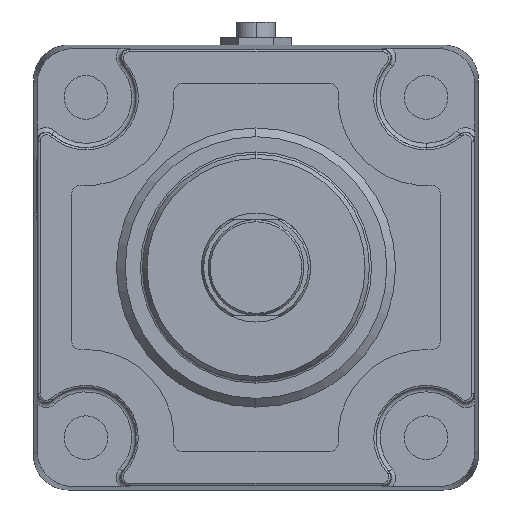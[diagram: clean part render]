
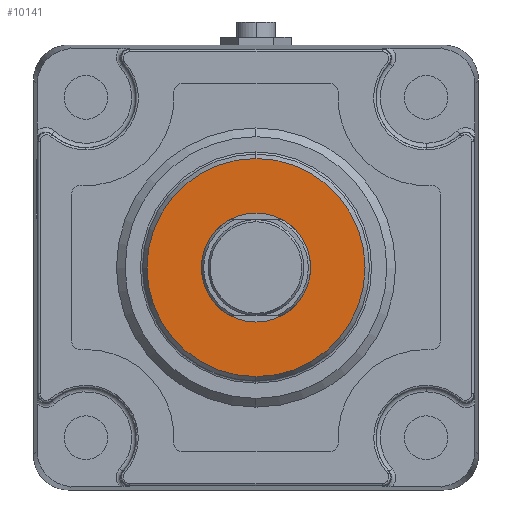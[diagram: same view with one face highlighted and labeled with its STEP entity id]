
A CAD part, left-side view. The second image highlights one B-rep face of the part: STEP entity #10141.
In plain terms, the highlighted planar face has unit normal (-1, 0, 0).
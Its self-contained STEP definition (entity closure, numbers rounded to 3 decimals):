
#236 = EDGE_CURVE ( 'NONE', #7395, #4058, #9733, .T. ) ;
#408 = CIRCLE ( 'NONE', #9065, 12.5 ) ;
#837 = DIRECTION ( 'NONE',  ( 0., 0., 1. ) ) ;
#911 = VERTEX_POINT ( 'NONE', #1241 ) ;
#944 = DIRECTION ( 'NONE',  ( 0., 0., -1. ) ) ;
#1028 = ORIENTED_EDGE ( 'NONE', *, *, #236, .T. ) ;
#1241 = CARTESIAN_POINT ( 'NONE',  ( -75.8, 0., 25. ) ) ;
#1665 = DIRECTION ( 'NONE',  ( 1., 0., 0. ) ) ;
#2604 = ORIENTED_EDGE ( 'NONE', *, *, #8326, .T. ) ;
#2758 = DIRECTION ( 'NONE',  ( -1., 0., 0. ) ) ;
#3375 = AXIS2_PLACEMENT_3D ( 'NONE', #4661, #9406, #10652 ) ;
#3422 = AXIS2_PLACEMENT_3D ( 'NONE', #6946, #7618, #7782 ) ;
#3979 = CARTESIAN_POINT ( 'NONE',  ( -75.8, 0., 0. ) ) ;
#4058 = VERTEX_POINT ( 'NONE', #8491 ) ;
#4369 = VERTEX_POINT ( 'NONE', #6269 ) ;
#4418 = CARTESIAN_POINT ( 'NONE',  ( -75.8, 0., 0. ) ) ;
#4661 = CARTESIAN_POINT ( 'NONE',  ( -75.8, 0., 0. ) ) ;
#4943 = FACE_OUTER_BOUND ( 'NONE', #5385, .T. ) ;
#5144 = ORIENTED_EDGE ( 'NONE', *, *, #6812, .T. ) ;
#5385 = EDGE_LOOP ( 'NONE', ( #2604, #8450 ) ) ;
#5413 = CIRCLE ( 'NONE', #9137, 25. ) ;
#5420 = EDGE_LOOP ( 'NONE', ( #1028, #5144 ) ) ;
#6269 = CARTESIAN_POINT ( 'NONE',  ( -75.8, 0., -25. ) ) ;
#6396 = PLANE ( 'NONE',  #3422 ) ;
#6812 = EDGE_CURVE ( 'NONE', #4058, #7395, #408, .T. ) ;
#6889 = EDGE_CURVE ( 'NONE', #911, #4369, #5413, .T. ) ;
#6946 = CARTESIAN_POINT ( 'NONE',  ( -75.8, 26., 0. ) ) ;
#7395 = VERTEX_POINT ( 'NONE', #7732 ) ;
#7618 = DIRECTION ( 'NONE',  ( -1., 0., 0. ) ) ;
#7732 = CARTESIAN_POINT ( 'NONE',  ( -75.8, 0., -12.5 ) ) ;
#7782 = DIRECTION ( 'NONE',  ( 0., 0., 1. ) ) ;
#8174 = DIRECTION ( 'NONE',  ( 0., 0., -1. ) ) ;
#8326 = EDGE_CURVE ( 'NONE', #4369, #911, #10380, .T. ) ;
#8450 = ORIENTED_EDGE ( 'NONE', *, *, #6889, .T. ) ;
#8491 = CARTESIAN_POINT ( 'NONE',  ( -75.8, 0., 12.5 ) ) ;
#8925 = AXIS2_PLACEMENT_3D ( 'NONE', #4418, #1665, #944 ) ;
#9065 = AXIS2_PLACEMENT_3D ( 'NONE', #10841, #10507, #8174 ) ;
#9137 = AXIS2_PLACEMENT_3D ( 'NONE', #3979, #2758, #837 ) ;
#9406 = DIRECTION ( 'NONE',  ( -1., 0., 0. ) ) ;
#9733 = CIRCLE ( 'NONE', #8925, 12.5 ) ;
#10141 = ADVANCED_FACE ( 'NONE', ( #4943, #10573 ), #6396, .T. ) ;
#10380 = CIRCLE ( 'NONE', #3375, 25. ) ;
#10507 = DIRECTION ( 'NONE',  ( 1., 0., 0. ) ) ;
#10573 = FACE_BOUND ( 'NONE', #5420, .T. ) ;
#10652 = DIRECTION ( 'NONE',  ( 0., 0., 1. ) ) ;
#10841 = CARTESIAN_POINT ( 'NONE',  ( -75.8, 0., 0. ) ) ;
